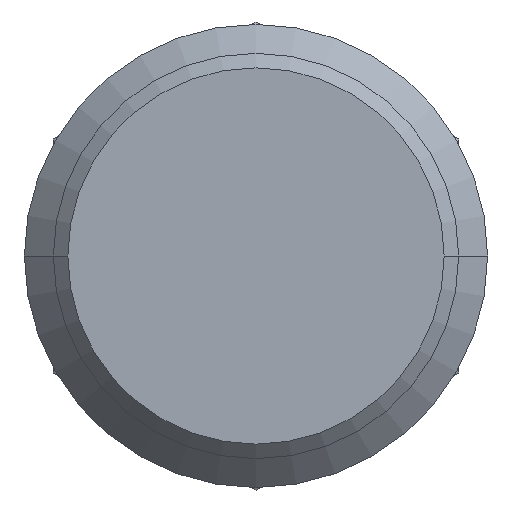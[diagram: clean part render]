
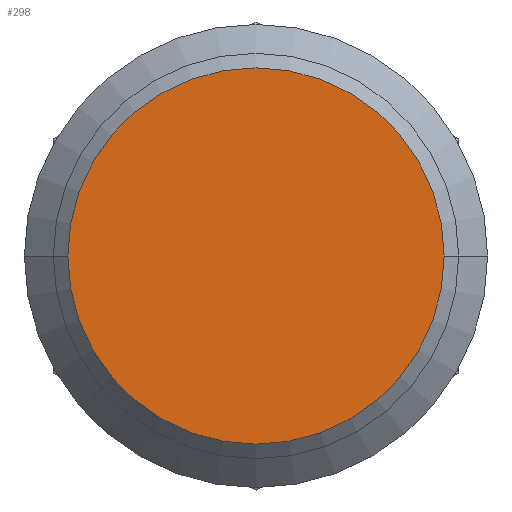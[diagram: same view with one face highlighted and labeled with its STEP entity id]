
A CAD part, front view. The second image highlights one B-rep face of the part: STEP entity #298.
In plain terms, the highlighted planar face has unit normal (0, -1, 0).
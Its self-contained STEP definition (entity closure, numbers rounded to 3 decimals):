
#298=ADVANCED_FACE('SPLSRF1',(#391),#372,.F.);
#372=PLANE('',#1154);
#391=FACE_OUTER_BOUND('',#459,.T.);
#459=EDGE_LOOP('',(#539,#540));
#539=ORIENTED_EDGE('',*,*,#935,.T.);
#540=ORIENTED_EDGE('',*,*,#936,.F.);
#847=VERTEX_POINT('',#1606);
#848=VERTEX_POINT('',#1607);
#935=EDGE_CURVE('ARC1',#847,#848,#1089,.T.);
#936=EDGE_CURVE('ARC2',#847,#848,#1090,.T.);
#1089=CIRCLE('',#1152,3.25);
#1090=CIRCLE('',#1153,3.25);
#1152=AXIS2_PLACEMENT_3D('',#1605,#1290,#1291);
#1153=AXIS2_PLACEMENT_3D('',#1608,#1292,#1293);
#1154=AXIS2_PLACEMENT_3D('',#1609,#1294,#1295);
#1290=DIRECTION('',(0.,-1.,0.));
#1291=DIRECTION('',(-1.,0.,0.));
#1292=DIRECTION('',(0.,1.,0.));
#1293=DIRECTION('',(-1.,0.,0.));
#1294=DIRECTION('',(0.,1.,0.));
#1295=DIRECTION('',(1.,0.,0.));
#1605=CARTESIAN_POINT('',(0.,-38.,0.));
#1606=CARTESIAN_POINT('',(-3.25,-38.,0.));
#1607=CARTESIAN_POINT('',(3.25,-38.,0.));
#1608=CARTESIAN_POINT('',(0.,-38.,0.));
#1609=CARTESIAN_POINT('',(-3.25,-38.,3.251));
